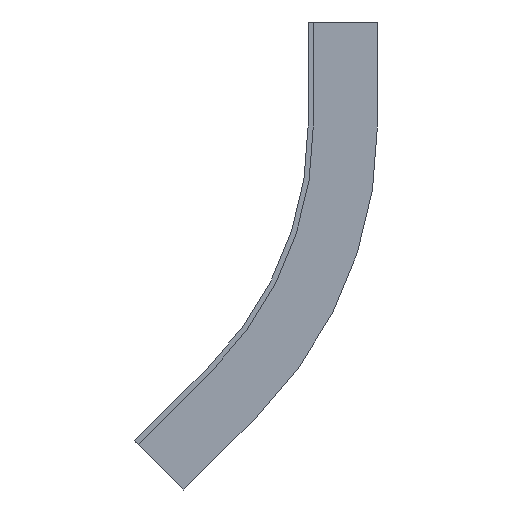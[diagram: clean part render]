
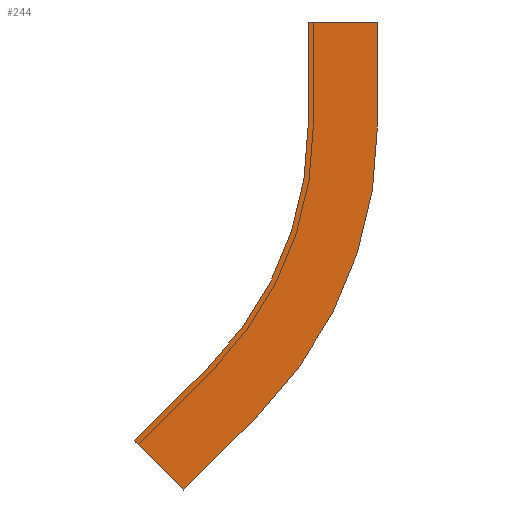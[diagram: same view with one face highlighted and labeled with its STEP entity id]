
A CAD part, left-side view. The second image highlights one B-rep face of the part: STEP entity #244.
In plain terms, the highlighted planar face has unit normal (-1, 0, 0).
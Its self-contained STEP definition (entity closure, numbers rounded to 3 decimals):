
#60 = AXIS2_PLACEMENT_3D ( 'NONE', #634, #681, #759 ) ;
#61 = ORIENTED_EDGE ( 'NONE', *, *, #433, .F. ) ;
#69 = CARTESIAN_POINT ( 'NONE',  ( -252., 14.708, -113.792 ) ) ;
#74 = CARTESIAN_POINT ( 'NONE',  ( -252., -20., -30. ) ) ;
#75 = ORIENTED_EDGE ( 'NONE', *, *, #268, .F. ) ;
#76 = EDGE_CURVE ( 'NONE', #624, #588, #318, .T. ) ;
#82 = ORIENTED_EDGE ( 'NONE', *, *, #76, .F. ) ;
#104 = ORIENTED_EDGE ( 'NONE', *, *, #393, .F. ) ;
#109 = VECTOR ( 'NONE', #581, 1000. ) ;
#124 = EDGE_CURVE ( 'NONE', #481, #854, #150, .T. ) ;
#148 = VECTOR ( 'NONE', #212, 1000. ) ;
#150 = CIRCLE ( 'NONE', #357, 118.5 ) ;
#168 = DIRECTION ( 'NONE',  ( 0., 0., 1. ) ) ;
#182 = CARTESIAN_POINT ( 'NONE',  ( -252., -20., 0. ) ) ;
#188 = EDGE_CURVE ( 'NONE', #675, #624, #552, .T. ) ;
#191 = CARTESIAN_POINT ( 'NONE',  ( -252., 0., 0. ) ) ;
#210 = LINE ( 'NONE', #272, #677 ) ;
#212 = DIRECTION ( 'NONE',  ( 0., 0.707, -0.707 ) ) ;
#214 = AXIS2_PLACEMENT_3D ( 'NONE', #281, #774, #493 ) ;
#220 = DIRECTION ( 'NONE',  ( 0., 0.707, 0.707 ) ) ;
#244 = ADVANCED_FACE ( 'NONE', ( #488 ), #551, .F. ) ;
#268 = EDGE_CURVE ( 'NONE', #854, #675, #817, .T. ) ;
#272 = CARTESIAN_POINT ( 'NONE',  ( -252., -20., 0. ) ) ;
#281 = CARTESIAN_POINT ( 'NONE',  ( -252., 98.5, -30. ) ) ;
#292 = CARTESIAN_POINT ( 'NONE',  ( -252., 35.921, -135.005 ) ) ;
#318 = LINE ( 'NONE', #640, #727 ) ;
#357 = AXIS2_PLACEMENT_3D ( 'NONE', #632, #757, #168 ) ;
#371 = VERTEX_POINT ( 'NONE', #595 ) ;
#381 = VECTOR ( 'NONE', #457, 1000. ) ;
#391 = CARTESIAN_POINT ( 'NONE',  ( -252., 35.921, -135.005 ) ) ;
#393 = EDGE_CURVE ( 'NONE', #371, #840, #649, .T. ) ;
#403 = LINE ( 'NONE', #853, #381 ) ;
#433 = EDGE_CURVE ( 'NONE', #733, #481, #403, .T. ) ;
#457 = DIRECTION ( 'NONE',  ( 0., 0., -1. ) ) ;
#481 = VERTEX_POINT ( 'NONE', #74 ) ;
#488 = FACE_OUTER_BOUND ( 'NONE', #744, .T. ) ;
#490 = ORIENTED_EDGE ( 'NONE', *, *, #188, .F. ) ;
#491 = CARTESIAN_POINT ( 'NONE',  ( -252., 28.85, -99.65 ) ) ;
#493 = DIRECTION ( 'NONE',  ( 0., 0., -1. ) ) ;
#503 = ORIENTED_EDGE ( 'NONE', *, *, #819, .F. ) ;
#541 = EDGE_CURVE ( 'NONE', #588, #371, #639, .T. ) ;
#551 = PLANE ( 'NONE',  #214 ) ;
#552 = LINE ( 'NONE', #746, #783 ) ;
#581 = DIRECTION ( 'NONE',  ( 0., 0., 1. ) ) ;
#588 = VERTEX_POINT ( 'NONE', #491 ) ;
#595 = CARTESIAN_POINT ( 'NONE',  ( -252., 0., -30. ) ) ;
#624 = VERTEX_POINT ( 'NONE', #657 ) ;
#632 = CARTESIAN_POINT ( 'NONE',  ( -252., 98.5, -30. ) ) ;
#634 = CARTESIAN_POINT ( 'NONE',  ( -252., 98.5, -30. ) ) ;
#639 = CIRCLE ( 'NONE', #60, 98.5 ) ;
#640 = CARTESIAN_POINT ( 'NONE',  ( -252., 28.85, -99.65 ) ) ;
#649 = LINE ( 'NONE', #191, #109 ) ;
#656 = ORIENTED_EDGE ( 'NONE', *, *, #541, .F. ) ;
#657 = CARTESIAN_POINT ( 'NONE',  ( -252., 50.063, -120.863 ) ) ;
#675 = VERTEX_POINT ( 'NONE', #391 ) ;
#677 = VECTOR ( 'NONE', #738, 1000. ) ;
#681 = DIRECTION ( 'NONE',  ( -1., 0., 0. ) ) ;
#707 = DIRECTION ( 'NONE',  ( 0., -0.707, 0.707 ) ) ;
#727 = VECTOR ( 'NONE', #707, 1000. ) ;
#733 = VERTEX_POINT ( 'NONE', #182 ) ;
#738 = DIRECTION ( 'NONE',  ( 0., -1., 0. ) ) ;
#744 = EDGE_LOOP ( 'NONE', ( #503, #104, #656, #82, #490, #75, #814, #61 ) ) ;
#746 = CARTESIAN_POINT ( 'NONE',  ( -252., 50.063, -120.863 ) ) ;
#757 = DIRECTION ( 'NONE',  ( 1., 0., 0. ) ) ;
#759 = DIRECTION ( 'NONE',  ( 0., 0., -1. ) ) ;
#774 = DIRECTION ( 'NONE',  ( 1., 0., 0. ) ) ;
#783 = VECTOR ( 'NONE', #220, 1000. ) ;
#807 = CARTESIAN_POINT ( 'NONE',  ( -252., 0., 0. ) ) ;
#814 = ORIENTED_EDGE ( 'NONE', *, *, #124, .F. ) ;
#817 = LINE ( 'NONE', #292, #148 ) ;
#819 = EDGE_CURVE ( 'NONE', #840, #733, #210, .T. ) ;
#840 = VERTEX_POINT ( 'NONE', #807 ) ;
#853 = CARTESIAN_POINT ( 'NONE',  ( -252., -20., -30. ) ) ;
#854 = VERTEX_POINT ( 'NONE', #69 ) ;
